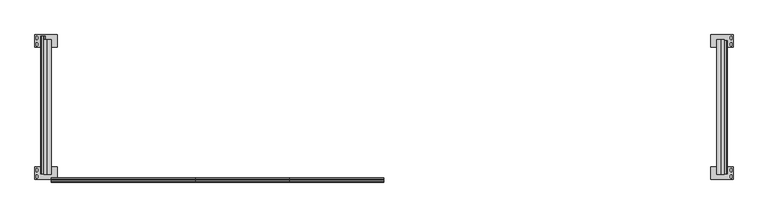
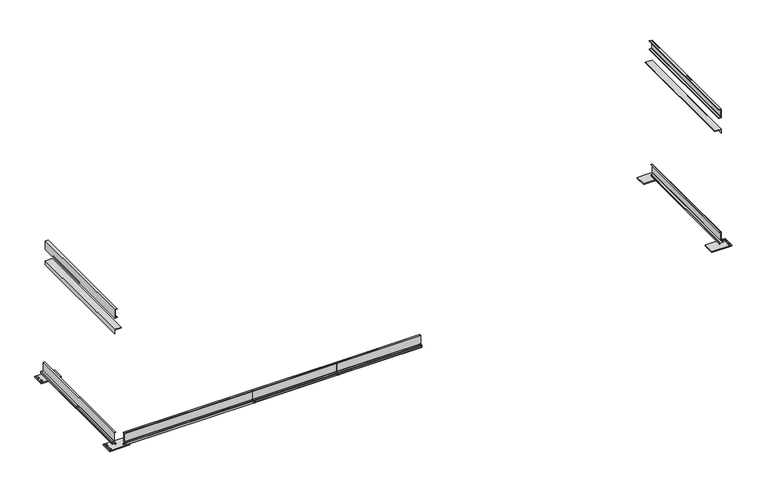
"""IFC4 building model written with IfcOpenShell, lengths in millimetres: beam geometry, Container_Frame1_Revised : Container_Frame1_Revised."""

from ifc_helpers import new_model, si_unit, point, frame, frame_2d, origin, origin_with_axes, place, context, project, spatial, polyline, circle_curve, trimmed, segment, composite_curve, outline, extrude, source, transform, mapped, element, save


def beam_ccb9a7fa(model_context):
    return source(origin(), model_context, "Body", "SweptSolid", [
        extrude(outline(composite_curve([segment(polyline([(-2839.9360336, 314.4782018), (-2872.4480298, 314.4782018)]), True, "CONTINUOUS"), segment(trimmed(circle_curve(frame_2d((-2872.4480298, 312.1921994)), 2.2860024), [point((-2872.4480298, 314.4782018))], [point((-2874.7340322, 312.1921994))], True, "CARTESIAN"), True, "CONTINUOUS"), segment(polyline([(-2874.7340322, 312.1921994), (-2874.7340322, 118.3420006)]), True, "CONTINUOUS"), segment(trimmed(circle_curve(frame_2d((-2880.316454, 118.6658126)), 5.5918054), [point((-2874.7340322, 118.3420006))], [point((-2880.316454, 113.0740072))], False, "CARTESIAN"), True, "CONTINUOUS"), segment(polyline([(-2880.316454, 113.0740072), (-2923.2424524, 113.0740072)]), True, "CONTINUOUS"), segment(trimmed(circle_curve(frame_2d((-2923.2424524, 110.7880073)), 2.286), [point((-2923.2424524, 113.0740072))], [point((-2925.5284524, 110.7880073))], True, "CARTESIAN"), True, "CONTINUOUS"), segment(polyline([(-2925.5284524, 110.7880073), (-2925.5284524, 71.1640072)]), True, "CONTINUOUS"), segment(trimmed(circle_curve(frame_2d((-2923.2424524, 71.1640072)), 2.2859999), [point((-2925.5284524, 71.1640072))], [point((-2923.2424524, 68.8780072))], True, "CARTESIAN"), True, "CONTINUOUS"), segment(polyline([(-2923.2424524, 68.8780072), (-2854.9164524, 68.8780073)]), True, "CONTINUOUS"), segment(trimmed(circle_curve(frame_2d((-2854.9164524, 63.2900073)), 5.588), [point((-2854.9164524, 68.8780073))], [point((-2849.3284524, 63.2900073))], False, "CARTESIAN"), True, "CONTINUOUS"), segment(polyline([(-2849.3284524, 63.2900073), (-2849.3284524, 35.3500073), (-2852.6304524, 35.3500073), (-2852.6304524, 63.2900073)]), True, "CONTINUOUS"), segment(trimmed(circle_curve(frame_2d((-2854.9164524, 63.2900073)), 2.286), [point((-2852.6304524, 63.2900073))], [point((-2854.9164524, 65.5760073))], True, "CARTESIAN"), True, "CONTINUOUS"), segment(polyline([(-2854.9164524, 65.5760073), (-2923.2424525, 65.5760073)]), True, "CONTINUOUS"), segment(trimmed(circle_curve(frame_2d((-2923.2424525, 71.1640072)), 5.5879999), [point((-2923.2424525, 65.5760073))], [point((-2928.8304524, 71.1640072))], False, "CARTESIAN"), True, "CONTINUOUS"), segment(polyline([(-2928.8304524, 71.1640072), (-2928.8304524, 110.7880087)]), True, "CONTINUOUS"), segment(trimmed(circle_curve(frame_2d((-2923.2424525, 110.7880087)), 5.5879999), [point((-2928.8304524, 110.7880087))], [point((-2923.2424525, 116.3760086))], False, "CARTESIAN"), True, "CONTINUOUS"), segment(polyline([(-2923.2424525, 116.3760086), (-2880.316454, 116.3760086)]), True, "CONTINUOUS"), segment(trimmed(circle_curve(frame_2d((-2880.316454, 118.6825446)), 2.306536), [point((-2880.316454, 116.3760086))], [point((-2878.0304509, 118.9896246))], True, "CARTESIAN"), True, "CONTINUOUS"), segment(polyline([(-2878.0304509, 118.9896246), (-2878.0304509, 312.1977957)]), True, "CONTINUOUS"), segment(trimmed(circle_curve(frame_2d((-2872.4480298, 312.1977957)), 5.5824211), [point((-2878.0304509, 312.1977957))], [point((-2872.4480298, 317.7802168))], False, "CARTESIAN"), True, "CONTINUOUS"), segment(polyline([(-2872.4480298, 317.7802168), (-2839.9360336, 317.7802168), (-2839.9360336, 314.4782018)]), True, "CONTINUOUS")], self_intersect=False)), frame((-1882.75, 0.0, 0.0), z_axis=(1.0, 0.0, 0.0), x_axis=(0.0, 1.0, 0.0)), (0.0, 0.0, 1.0), 1882.65),
        extrude(outline(composite_curve([segment(polyline([(-2839.9360336, 314.4782018), (-2872.4480298, 314.4782018)]), True, "CONTINUOUS"), segment(trimmed(circle_curve(frame_2d((-2872.4480298, 312.1921994)), 2.2860024), [point((-2872.4480298, 314.4782018))], [point((-2874.7340322, 312.1921994))], True, "CARTESIAN"), True, "CONTINUOUS"), segment(polyline([(-2874.7340322, 312.1921994), (-2874.7340322, 118.3420006)]), True, "CONTINUOUS"), segment(trimmed(circle_curve(frame_2d((-2880.316454, 118.6658126)), 5.5918054), [point((-2874.7340322, 118.3420006))], [point((-2880.316454, 113.0740072))], False, "CARTESIAN"), True, "CONTINUOUS"), segment(polyline([(-2880.316454, 113.0740072), (-2923.2424524, 113.0740072)]), True, "CONTINUOUS"), segment(trimmed(circle_curve(frame_2d((-2923.2424524, 110.7880073)), 2.286), [point((-2923.2424524, 113.0740072))], [point((-2925.5284524, 110.7880073))], True, "CARTESIAN"), True, "CONTINUOUS"), segment(polyline([(-2925.5284524, 110.7880073), (-2925.5284524, 71.1640072)]), True, "CONTINUOUS"), segment(trimmed(circle_curve(frame_2d((-2923.2424524, 71.1640072)), 2.2859999), [point((-2925.5284524, 71.1640072))], [point((-2923.2424524, 68.8780072))], True, "CARTESIAN"), True, "CONTINUOUS"), segment(polyline([(-2923.2424524, 68.8780072), (-2854.9164524, 68.8780073)]), True, "CONTINUOUS"), segment(trimmed(circle_curve(frame_2d((-2854.9164524, 63.2900073)), 5.588), [point((-2854.9164524, 68.8780073))], [point((-2849.3284524, 63.2900073))], False, "CARTESIAN"), True, "CONTINUOUS"), segment(polyline([(-2849.3284524, 63.2900073), (-2849.3284524, 35.3500073), (-2852.6304524, 35.3500073), (-2852.6304524, 63.2900073)]), True, "CONTINUOUS"), segment(trimmed(circle_curve(frame_2d((-2854.9164524, 63.2900073)), 2.286), [point((-2852.6304524, 63.2900073))], [point((-2854.9164524, 65.5760073))], True, "CARTESIAN"), True, "CONTINUOUS"), segment(polyline([(-2854.9164524, 65.5760073), (-2923.2424525, 65.5760073)]), True, "CONTINUOUS"), segment(trimmed(circle_curve(frame_2d((-2923.2424525, 71.1640072)), 5.5879999), [point((-2923.2424525, 65.5760073))], [point((-2928.8304524, 71.1640072))], False, "CARTESIAN"), True, "CONTINUOUS"), segment(polyline([(-2928.8304524, 71.1640072), (-2928.8304524, 110.7880087)]), True, "CONTINUOUS"), segment(trimmed(circle_curve(frame_2d((-2923.2424525, 110.7880087)), 5.5879999), [point((-2928.8304524, 110.7880087))], [point((-2923.2424525, 116.3760086))], False, "CARTESIAN"), True, "CONTINUOUS"), segment(polyline([(-2923.2424525, 116.3760086), (-2880.316454, 116.3760086)]), True, "CONTINUOUS"), segment(trimmed(circle_curve(frame_2d((-2880.316454, 118.6825446)), 2.306536), [point((-2880.316454, 116.3760086))], [point((-2878.0304509, 118.9896246))], True, "CARTESIAN"), True, "CONTINUOUS"), segment(polyline([(-2878.0304509, 118.9896246), (-2878.0304509, 312.1977957)]), True, "CONTINUOUS"), segment(trimmed(circle_curve(frame_2d((-2872.4480298, 312.1977957)), 5.5824211), [point((-2878.0304509, 312.1977957))], [point((-2872.4480298, 317.7802168))], False, "CARTESIAN"), True, "CONTINUOUS"), segment(polyline([(-2872.4480298, 317.7802168), (-2839.9360336, 317.7802168), (-2839.9360336, 314.4782018)]), True, "CONTINUOUS")], self_intersect=False)), frame((-3765.8, 0.0, 0.0), z_axis=(1.0, 0.0, 0.0), x_axis=(0.0, 1.0, 0.0)), (0.0, 0.0, 1.0), 1882.65),
        extrude(outline(composite_curve([segment(polyline([(314.7500102, -6769.1), (318.0520108, -6769.1), (318.0520108, -6801.612)]), True, "CONTINUOUS"), segment(trimmed(circle_curve(frame_2d((312.4644222, -6801.612)), 5.5875886), [point((318.0520108, -6801.612))], [point((312.4644222, -6807.1995886))], False, "CARTESIAN"), True, "CONTINUOUS"), segment(polyline([(312.4644222, -6807.1995886), (118.6620064, -6807.1995886)]), True, "CONTINUOUS"), segment(trimmed(circle_curve(frame_2d((118.6620064, -6809.4855864)), 2.2859978), [point((118.6620064, -6807.1995886))], [point((116.3760086, -6809.4855864))], True, "CARTESIAN"), True, "CONTINUOUS"), segment(polyline([(116.3760086, -6809.4855864), (116.3760086, -6852.3427328)]), True, "CONTINUOUS"), segment(trimmed(circle_curve(frame_2d((110.7187414, -6852.3427328)), 5.6572672), [point((116.3760086, -6852.3427328))], [point((110.7187414, -6858.0))], False, "CARTESIAN"), True, "CONTINUOUS"), segment(polyline([(110.7187414, -6858.0), (71.1640109, -6858.0)]), True, "CONTINUOUS"), segment(trimmed(circle_curve(frame_2d((71.1640109, -6852.4119999)), 5.5880001), [point((71.1640109, -6858.0))], [point((65.5760108, -6852.4119999))], False, "CARTESIAN"), True, "CONTINUOUS"), segment(polyline([(65.5760108, -6852.4119999), (65.5760108, -6784.086)]), True, "CONTINUOUS"), segment(trimmed(circle_curve(frame_2d((63.2900108, -6784.086)), 2.286), [point((65.5760108, -6784.086))], [point((63.2900108, -6781.8))], True, "CARTESIAN"), True, "CONTINUOUS"), segment(polyline([(63.2900108, -6781.8), (35.3500108, -6781.8), (35.3500108, -6778.498), (63.2900108, -6778.498)]), True, "CONTINUOUS"), segment(trimmed(circle_curve(frame_2d((63.2900108, -6784.086)), 5.588), [point((63.2900108, -6778.498))], [point((68.8780108, -6784.086))], False, "CARTESIAN"), True, "CONTINUOUS"), segment(polyline([(68.8780108, -6784.086), (68.8780108, -6852.3427328)]), True, "CONTINUOUS"), segment(trimmed(circle_curve(frame_2d((71.2327725, -6852.3427328)), 2.3547617), [point((68.8780108, -6852.3427328))], [point((71.2327725, -6854.6974945))], True, "CARTESIAN"), True, "CONTINUOUS"), segment(polyline([(71.2327725, -6854.6974945), (110.7192501, -6854.6974945)]), True, "CONTINUOUS"), segment(trimmed(circle_curve(frame_2d((110.7192501, -6852.3427328)), 2.3547617), [point((110.7192501, -6854.6974945))], [point((113.0740118, -6852.3427328))], True, "CARTESIAN"), True, "CONTINUOUS"), segment(polyline([(113.0740118, -6852.3427328), (113.0740118, -6809.4863007)]), True, "CONTINUOUS"), segment(trimmed(circle_curve(frame_2d((118.6620428, -6809.4863007)), 5.588031), [point((113.0740118, -6809.4863007))], [point((118.6620428, -6803.8982697))], False, "CARTESIAN"), True, "CONTINUOUS"), segment(polyline([(118.6620428, -6803.8982697), (312.4637406, -6803.8982697)]), True, "CONTINUOUS"), segment(trimmed(circle_curve(frame_2d((312.4637406, -6801.612)), 2.2862697), [point((312.4637406, -6803.8982697))], [point((314.7500102, -6801.612))], True, "CARTESIAN"), True, "CONTINUOUS"), segment(polyline([(314.7500102, -6801.612), (314.7500102, -6769.1)]), True, "CONTINUOUS")], self_intersect=False)), frame((0.0, -2761.5304489, 0.0), z_axis=(0.0, 1.0, 0.0), x_axis=(0.0, 0.0, 1.0)), (0.0, 0.0, 1.0), 2761.5304489),
        extrude(outline(composite_curve([segment(polyline([(314.7500102, 6769.1), (314.7500102, 6801.612)]), True, "CONTINUOUS"), segment(trimmed(circle_curve(frame_2d((312.4637406, 6801.612)), 2.2862697), [point((314.7500102, 6801.612))], [point((312.4637406, 6803.8982697))], True, "CARTESIAN"), True, "CONTINUOUS"), segment(polyline([(312.4637406, 6803.8982697), (118.6620428, 6803.8982697)]), True, "CONTINUOUS"), segment(trimmed(circle_curve(frame_2d((118.6620428, 6809.4863007)), 5.588031), [point((118.6620428, 6803.8982697))], [point((113.0740118, 6809.4863007))], False, "CARTESIAN"), True, "CONTINUOUS"), segment(polyline([(113.0740118, 6809.4863007), (113.0740118, 6852.3427328)]), True, "CONTINUOUS"), segment(trimmed(circle_curve(frame_2d((110.7192501, 6852.3427328)), 2.3547617), [point((113.0740118, 6852.3427328))], [point((110.7192501, 6854.6974945))], True, "CARTESIAN"), True, "CONTINUOUS"), segment(polyline([(110.7192501, 6854.6974945), (71.2327725, 6854.6974945)]), True, "CONTINUOUS"), segment(trimmed(circle_curve(frame_2d((71.2327725, 6852.3427328)), 2.3547617), [point((71.2327725, 6854.6974945))], [point((68.8780108, 6852.3427328))], True, "CARTESIAN"), True, "CONTINUOUS"), segment(polyline([(68.8780108, 6852.3427328), (68.8780108, 6784.086)]), True, "CONTINUOUS"), segment(trimmed(circle_curve(frame_2d((63.2900108, 6784.086)), 5.588), [point((68.8780108, 6784.086))], [point((63.2900108, 6778.498))], False, "CARTESIAN"), True, "CONTINUOUS"), segment(polyline([(63.2900108, 6778.498), (35.3500108, 6778.498), (35.3500108, 6781.8), (63.2900108, 6781.8)]), True, "CONTINUOUS"), segment(trimmed(circle_curve(frame_2d((63.2900108, 6784.086)), 2.286), [point((63.2900108, 6781.8))], [point((65.5760108, 6784.086))], True, "CARTESIAN"), True, "CONTINUOUS"), segment(polyline([(65.5760108, 6784.086), (65.5760108, 6852.4119999)]), True, "CONTINUOUS"), segment(trimmed(circle_curve(frame_2d((71.1640109, 6852.4119999)), 5.5880001), [point((65.5760108, 6852.4119999))], [point((71.1640109, 6858.0))], False, "CARTESIAN"), True, "CONTINUOUS"), segment(polyline([(71.1640109, 6858.0), (110.7187414, 6858.0)]), True, "CONTINUOUS"), segment(trimmed(circle_curve(frame_2d((110.7187414, 6852.3427328)), 5.6572672), [point((110.7187414, 6858.0))], [point((116.3760086, 6852.3427328))], False, "CARTESIAN"), True, "CONTINUOUS"), segment(polyline([(116.3760086, 6852.3427328), (116.3760086, 6809.4855864)]), True, "CONTINUOUS"), segment(trimmed(circle_curve(frame_2d((118.6620064, 6809.4855864)), 2.2859978), [point((116.3760086, 6809.4855864))], [point((118.6620064, 6807.1995886))], True, "CARTESIAN"), True, "CONTINUOUS"), segment(polyline([(118.6620064, 6807.1995886), (312.4644222, 6807.1995886)]), True, "CONTINUOUS"), segment(trimmed(circle_curve(frame_2d((312.4644222, 6801.612)), 5.5875886), [point((312.4644222, 6807.1995886))], [point((318.0520108, 6801.612))], False, "CARTESIAN"), True, "CONTINUOUS"), segment(polyline([(318.0520108, 6801.612), (318.0520108, 6769.1), (314.7500102, 6769.1)]), True, "CONTINUOUS")], self_intersect=False)), frame((0.0, -2761.5304489, 0.0), z_axis=(0.0, 1.0, 0.0), x_axis=(0.0, 0.0, 1.0)), (0.0, 0.0, 1.0), 2666.9998774),
        extrude(outline(composite_curve([segment(polyline([(2775.4, 6807.2), (2775.4, 6654.8), (2771.5265, 6654.8)]), True, "CONTINUOUS"), segment(trimmed(circle_curve(frame_2d((2771.5265, 6658.864)), 4.064), [point((2771.5265, 6654.8))], [point((2767.4625, 6658.864))], False, "CARTESIAN"), True, "CONTINUOUS"), segment(polyline([(2767.4625, 6658.864), (2767.4625, 6792.9125)]), True, "CONTINUOUS"), segment(trimmed(circle_curve(frame_2d((2761.1125, 6792.9125)), 6.35), [point((2767.4625, 6792.9125))], [point((2761.1125, 6799.2625))], True, "CARTESIAN"), True, "CONTINUOUS"), segment(polyline([(2761.1125, 6799.2625), (2677.864, 6799.2625)]), True, "CONTINUOUS"), segment(trimmed(circle_curve(frame_2d((2677.864, 6803.3265)), 4.064), [point((2677.864, 6799.2625))], [point((2673.8, 6803.3265))], False, "CARTESIAN"), True, "CONTINUOUS"), segment(polyline([(2673.8, 6803.3265), (2673.8, 6807.2), (2775.4, 6807.2)]), True, "CONTINUOUS")], self_intersect=False)), frame((0.0, -2776.446518, 0.0), z_axis=(0.0, 1.0, 0.0), x_axis=(0.0, 0.0, 1.0)), (0.0, 0.0, 1.0), 2696.8321342),
        extrude(outline(composite_curve([segment(polyline([(3250.0, 6807.2), (3250.0, 6743.7), (3245.7229376, 6743.7)]), True, "CONTINUOUS"), segment(trimmed(circle_curve(frame_2d((3245.7229376, 6747.0158224)), 3.3158224), [point((3245.7229376, 6743.7))], [point((3242.4071152, 6747.0158224))], False, "CARTESIAN"), True, "CONTINUOUS"), segment(polyline([(3242.4071152, 6747.0158224), (3238.9019187, 6787.0804019)]), True, "CONTINUOUS"), segment(trimmed(circle_curve(frame_2d((3231.4823205, 6787.0804019)), 7.4195981), [point((3238.9019187, 6787.0804019))], [point((3231.4823205, 6794.5))], True, "CARTESIAN"), True, "CONTINUOUS"), segment(polyline([(3231.4823205, 6794.5), (3065.9951518, 6794.5)]), True, "CONTINUOUS"), segment(trimmed(circle_curve(frame_2d((3065.9951518, 6786.3379756)), 8.1620244), [point((3065.9951518, 6794.5))], [point((3057.9571269, 6787.7552963))], True, "CARTESIAN"), True, "CONTINUOUS"), segment(polyline([(3057.9571269, 6787.7552963), (3054.3928848, 6747.0158224)]), True, "CONTINUOUS"), segment(trimmed(circle_curve(frame_2d((3051.0770624, 6747.0158224)), 3.3158224), [point((3054.3928848, 6747.0158224))], [point((3051.0770624, 6743.7))], False, "CARTESIAN"), True, "CONTINUOUS"), segment(polyline([(3051.0770624, 6743.7), (3046.8, 6743.7), (3046.8, 6807.2), (3250.0, 6807.2)]), True, "CONTINUOUS")], self_intersect=False)), frame((0.0, -2776.4304509, 0.0), z_axis=(0.0, 1.0, 0.0), x_axis=(0.0, 0.0, 1.0)), (0.0, 0.0, 1.0), 2696.8),
        extrude(outline(composite_curve([segment(polyline([(2775.4, -6807.2), (2673.8, -6807.2), (2673.8, -6803.3265)]), True, "CONTINUOUS"), segment(trimmed(circle_curve(frame_2d((2677.864, -6803.3265)), 4.064), [point((2673.8, -6803.3265))], [point((2677.864, -6799.2625))], False, "CARTESIAN"), True, "CONTINUOUS"), segment(polyline([(2677.864, -6799.2625), (2761.1125, -6799.2625)]), True, "CONTINUOUS"), segment(trimmed(circle_curve(frame_2d((2761.1125, -6792.9125)), 6.35), [point((2761.1125, -6799.2625))], [point((2767.4625, -6792.9125))], True, "CARTESIAN"), True, "CONTINUOUS"), segment(polyline([(2767.4625, -6792.9125), (2767.4625, -6658.864)]), True, "CONTINUOUS"), segment(trimmed(circle_curve(frame_2d((2771.5265, -6658.864)), 4.064), [point((2767.4625, -6658.864))], [point((2771.5265, -6654.8))], False, "CARTESIAN"), True, "CONTINUOUS"), segment(polyline([(2771.5265, -6654.8), (2775.4, -6654.8), (2775.4, -6807.2)]), True, "CONTINUOUS")], self_intersect=False)), frame((0.0, -2776.446518, 0.0), z_axis=(0.0, 1.0, 0.0), x_axis=(0.0, 0.0, 1.0)), (0.0, 0.0, 1.0), 2696.8321342),
        extrude(outline(composite_curve([segment(polyline([(3250.0, -6807.2), (3046.8, -6807.2), (3046.8, -6743.7), (3051.0770624, -6743.7)]), True, "CONTINUOUS"), segment(trimmed(circle_curve(frame_2d((3051.0770624, -6747.0158224)), 3.3158224), [point((3051.0770624, -6743.7))], [point((3054.3928848, -6747.0158224))], False, "CARTESIAN"), True, "CONTINUOUS"), segment(polyline([(3054.3928848, -6747.0158224), (3057.9571269, -6787.7552963)]), True, "CONTINUOUS"), segment(trimmed(circle_curve(frame_2d((3065.9951518, -6786.3379756)), 8.1620244), [point((3057.9571269, -6787.7552963))], [point((3065.9951518, -6794.5))], True, "CARTESIAN"), True, "CONTINUOUS"), segment(polyline([(3065.9951518, -6794.5), (3231.4823205, -6794.5)]), True, "CONTINUOUS"), segment(trimmed(circle_curve(frame_2d((3231.4823205, -6787.0804019)), 7.4195981), [point((3231.4823205, -6794.5))], [point((3238.9019187, -6787.0804019))], True, "CARTESIAN"), True, "CONTINUOUS"), segment(polyline([(3238.9019187, -6787.0804019), (3242.4071152, -6747.0158224)]), True, "CONTINUOUS"), segment(trimmed(circle_curve(frame_2d((3245.7229376, -6747.0158224)), 3.3158224), [point((3242.4071152, -6747.0158224))], [point((3245.7229376, -6743.7))], False, "CARTESIAN"), True, "CONTINUOUS"), segment(polyline([(3245.7229376, -6743.7), (3250.0, -6743.7), (3250.0, -6807.2)]), True, "CONTINUOUS")], self_intersect=False)), frame((0.0, -2776.4304509, 0.0), z_axis=(0.0, 1.0, 0.0), x_axis=(0.0, 0.0, 1.0)), (0.0, 0.0, 1.0), 2696.8),
        extrude(outline(composite_curve([segment(polyline([(-2839.9360336, 314.4782018), (-2872.4480298, 314.4782018)]), True, "CONTINUOUS"), segment(trimmed(circle_curve(frame_2d((-2872.4480298, 312.1921994)), 2.2860024), [point((-2872.4480298, 314.4782018))], [point((-2874.7340322, 312.1921994))], True, "CARTESIAN"), True, "CONTINUOUS"), segment(polyline([(-2874.7340322, 312.1921994), (-2874.7340322, 118.3420006)]), True, "CONTINUOUS"), segment(trimmed(circle_curve(frame_2d((-2880.316454, 118.6658126)), 5.5918054), [point((-2874.7340322, 118.3420006))], [point((-2880.316454, 113.0740072))], False, "CARTESIAN"), True, "CONTINUOUS"), segment(polyline([(-2880.316454, 113.0740072), (-2923.2424524, 113.0740072)]), True, "CONTINUOUS"), segment(trimmed(circle_curve(frame_2d((-2923.2424524, 110.7880073)), 2.286), [point((-2923.2424524, 113.0740072))], [point((-2925.5284524, 110.7880073))], True, "CARTESIAN"), True, "CONTINUOUS"), segment(polyline([(-2925.5284524, 110.7880073), (-2925.5284524, 71.1640072)]), True, "CONTINUOUS"), segment(trimmed(circle_curve(frame_2d((-2923.2424524, 71.1640072)), 2.2859999), [point((-2925.5284524, 71.1640072))], [point((-2923.2424524, 68.8780072))], True, "CARTESIAN"), True, "CONTINUOUS"), segment(polyline([(-2923.2424524, 68.8780072), (-2854.9164524, 68.8780073)]), True, "CONTINUOUS"), segment(trimmed(circle_curve(frame_2d((-2854.9164524, 63.2900073)), 5.588), [point((-2854.9164524, 68.8780073))], [point((-2849.3284524, 63.2900073))], False, "CARTESIAN"), True, "CONTINUOUS"), segment(polyline([(-2849.3284524, 63.2900073), (-2849.3284524, 35.3500073), (-2852.6304524, 35.3500073), (-2852.6304524, 63.2900073)]), True, "CONTINUOUS"), segment(trimmed(circle_curve(frame_2d((-2854.9164524, 63.2900073)), 2.286), [point((-2852.6304524, 63.2900073))], [point((-2854.9164524, 65.5760073))], True, "CARTESIAN"), True, "CONTINUOUS"), segment(polyline([(-2854.9164524, 65.5760073), (-2923.2424525, 65.5760073)]), True, "CONTINUOUS"), segment(trimmed(circle_curve(frame_2d((-2923.2424525, 71.1640072)), 5.5879999), [point((-2923.2424525, 65.5760073))], [point((-2928.8304524, 71.1640072))], False, "CARTESIAN"), True, "CONTINUOUS"), segment(polyline([(-2928.8304524, 71.1640072), (-2928.8304524, 110.7880087)]), True, "CONTINUOUS"), segment(trimmed(circle_curve(frame_2d((-2923.2424525, 110.7880087)), 5.5879999), [point((-2928.8304524, 110.7880087))], [point((-2923.2424525, 116.3760086))], False, "CARTESIAN"), True, "CONTINUOUS"), segment(polyline([(-2923.2424525, 116.3760086), (-2880.316454, 116.3760086)]), True, "CONTINUOUS"), segment(trimmed(circle_curve(frame_2d((-2880.316454, 118.6825446)), 2.306536), [point((-2880.316454, 116.3760086))], [point((-2878.0304509, 118.9896246))], True, "CARTESIAN"), True, "CONTINUOUS"), segment(polyline([(-2878.0304509, 118.9896246), (-2878.0304509, 312.1977957)]), True, "CONTINUOUS"), segment(trimmed(circle_curve(frame_2d((-2872.4480298, 312.1977957)), 5.5824211), [point((-2878.0304509, 312.1977957))], [point((-2872.4480298, 317.7802168))], False, "CARTESIAN"), True, "CONTINUOUS"), segment(polyline([(-2872.4480298, 317.7802168), (-2839.9360336, 317.7802168), (-2839.9360336, 314.4782018)]), True, "CONTINUOUS")], self_intersect=False)), frame((-6654.8, 0.0, 0.0), z_axis=(1.0, 0.0, 0.0), x_axis=(0.0, 1.0, 0.0)), (0.0, 0.0, 1.0), 2888.6),
        extrude(outline(polyline([(6529.7, -228.0304509), (6529.7, 21.9695491), (6979.7, 21.9695491), (6979.7, -228.0304509), (6529.7, -228.0304509)]), holes=[composite_curve([segment(polyline([(6957.7, -188.0304509), (6957.7, -148.0304509)]), True, "CONTINUOUS"), segment(trimmed(circle_curve(frame_2d((6941.7, -148.0304509)), 16.0), [point((6957.7, -148.0304509))], [point((6925.7, -148.0304509))], True, "CARTESIAN"), True, "CONTINUOUS"), segment(polyline([(6925.7, -148.0304509), (6925.7, -188.0304509)]), True, "CONTINUOUS"), segment(trimmed(circle_curve(frame_2d((6941.7, -188.0304509)), 16.0), [point((6925.7, -188.0304509))], [point((6957.7, -188.0304509))], True, "CARTESIAN"), True, "CONTINUOUS")], self_intersect=False), composite_curve([segment(trimmed(circle_curve(frame_2d((6941.7, -58.0304509)), 16.0), [point((6925.7, -58.0304509))], [point((6957.7, -58.0304509))], True, "CARTESIAN"), True, "CONTINUOUS"), segment(polyline([(6957.7, -58.0304509), (6957.7, -18.0304509)]), True, "CONTINUOUS"), segment(trimmed(circle_curve(frame_2d((6941.7, -18.0304509)), 16.0), [point((6957.7, -18.0304509))], [point((6925.7, -18.0304509))], True, "CARTESIAN"), True, "CONTINUOUS"), segment(polyline([(6925.7, -18.0304509), (6925.7, -58.0304509)]), True, "CONTINUOUS")], self_intersect=False)]), origin_with_axes(), (0.0, 0.0, 1.0), 25.0),
        extrude(outline(polyline([(-6529.7, -228.0304509), (-6979.7, -228.0304509), (-6979.7, 21.9695491), (-6529.7, 21.9695491), (-6529.7, -228.0304509)]), holes=[composite_curve([segment(trimmed(circle_curve(frame_2d((-6941.7, -188.0304509)), 16.0), [point((-6957.7, -188.0304509))], [point((-6925.7, -188.0304509))], True, "CARTESIAN"), True, "CONTINUOUS"), segment(polyline([(-6925.7, -188.0304509), (-6925.7, -148.0304509)]), True, "CONTINUOUS"), segment(trimmed(circle_curve(frame_2d((-6941.7, -148.0304509)), 16.0), [point((-6925.7, -148.0304509))], [point((-6957.7, -148.0304509))], True, "CARTESIAN"), True, "CONTINUOUS"), segment(polyline([(-6957.7, -148.0304509), (-6957.7, -188.0304509)]), True, "CONTINUOUS")], self_intersect=False), composite_curve([segment(polyline([(-6925.7, -58.0304509), (-6925.7, -18.0304509)]), True, "CONTINUOUS"), segment(trimmed(circle_curve(frame_2d((-6941.7, -18.0304509)), 16.0), [point((-6925.7, -18.0304509))], [point((-6957.7, -18.0304509))], True, "CARTESIAN"), True, "CONTINUOUS"), segment(polyline([(-6957.7, -18.0304509), (-6957.7, -58.0304509)]), True, "CONTINUOUS"), segment(trimmed(circle_curve(frame_2d((-6941.7, -58.0304509)), 16.0), [point((-6957.7, -58.0304509))], [point((-6925.7, -58.0304509))], True, "CARTESIAN"), True, "CONTINUOUS")], self_intersect=False)]), origin_with_axes(), (0.0, 0.0, 1.0), 25.0),
        extrude(outline(polyline([(6529.7, -2628.0304509), (6979.7, -2628.0304509), (6979.7, -2878.0304509), (6529.7, -2878.0304509), (6529.7, -2628.0304509)]), holes=[composite_curve([segment(polyline([(6925.7, -2798.0304509), (6925.7, -2838.0304509)]), True, "CONTINUOUS"), segment(trimmed(circle_curve(frame_2d((6941.7, -2838.0304509)), 16.0), [point((6925.7, -2838.0304509))], [point((6957.7, -2838.0304509))], True, "CARTESIAN"), True, "CONTINUOUS"), segment(polyline([(6957.7, -2838.0304509), (6957.7, -2798.0304509)]), True, "CONTINUOUS"), segment(trimmed(circle_curve(frame_2d((6941.7, -2798.0304509)), 16.0), [point((6957.7, -2798.0304509))], [point((6925.7, -2798.0304509))], True, "CARTESIAN"), True, "CONTINUOUS")], self_intersect=False), composite_curve([segment(trimmed(circle_curve(frame_2d((6941.7, -2708.0304509)), 16.0), [point((6925.7, -2708.0304509))], [point((6957.7, -2708.0304509))], True, "CARTESIAN"), True, "CONTINUOUS"), segment(polyline([(6957.7, -2708.0304509), (6957.7, -2668.0304509)]), True, "CONTINUOUS"), segment(trimmed(circle_curve(frame_2d((6941.7, -2668.0304509)), 16.0), [point((6957.7, -2668.0304509))], [point((6925.7, -2668.0304509))], True, "CARTESIAN"), True, "CONTINUOUS"), segment(polyline([(6925.7, -2668.0304509), (6925.7, -2708.0304509)]), True, "CONTINUOUS")], self_intersect=False)]), origin_with_axes(), (0.0, 0.0, 1.0), 25.0),
        extrude(outline(polyline([(-6529.7, -2628.0304509), (-6529.7, -2878.0304509), (-6979.7, -2878.0304509), (-6979.7, -2628.0304509), (-6529.7, -2628.0304509)]), holes=[composite_curve([segment(polyline([(-6957.7, -2668.0304509), (-6957.7, -2708.0304509)]), True, "CONTINUOUS"), segment(trimmed(circle_curve(frame_2d((-6941.7, -2708.0304509)), 16.0), [point((-6957.7, -2708.0304509))], [point((-6925.7, -2708.0304509))], True, "CARTESIAN"), True, "CONTINUOUS"), segment(polyline([(-6925.7, -2708.0304509), (-6925.7, -2668.0304509)]), True, "CONTINUOUS"), segment(trimmed(circle_curve(frame_2d((-6941.7, -2668.0304509)), 16.0), [point((-6925.7, -2668.0304509))], [point((-6957.7, -2668.0304509))], True, "CARTESIAN"), True, "CONTINUOUS")], self_intersect=False), composite_curve([segment(trimmed(circle_curve(frame_2d((-6941.7, -2798.0304509)), 16.0), [point((-6925.7, -2798.0304509))], [point((-6957.7, -2798.0304509))], True, "CARTESIAN"), True, "CONTINUOUS"), segment(polyline([(-6957.7, -2798.0304509), (-6957.7, -2838.0304509)]), True, "CONTINUOUS"), segment(trimmed(circle_curve(frame_2d((-6941.7, -2838.0304509)), 16.0), [point((-6957.7, -2838.0304509))], [point((-6925.7, -2838.0304509))], True, "CARTESIAN"), True, "CONTINUOUS"), segment(polyline([(-6925.7, -2838.0304509), (-6925.7, -2798.0304509)]), True, "CONTINUOUS")], self_intersect=False)]), origin_with_axes(), (0.0, 0.0, 1.0), 25.0),
    ])


if __name__ == "__main__":
    model = new_model("IFC4")
    model_context = context("Model", 3, world=origin())
    ifc_project = project(units=[si_unit("LENGTHUNIT", "METRE", prefix="MILLI")], contexts=[model_context])
    site = spatial("IfcSite", under=ifc_project)
    building = spatial("IfcBuilding", under=site)
    placement = place(None, origin())
    beam_shape = beam_ccb9a7fa(model_context)
    element("IfcBeam", 1, ObjectType="Container_Frame1_Revised : Container_Frame1_Revised", at=placement, inside=building, context=model_context, shape_type="MappedRepresentation", body=[
        mapped(beam_shape, transform((0.0, 0.0, 0.0), x_axis=(1.0, 0.0, 0.0), y_axis=(0.0, 1.0, 0.0), z_axis=(0.0, 0.0, 1.0))),
    ])
    save(model, "model.ifc")
